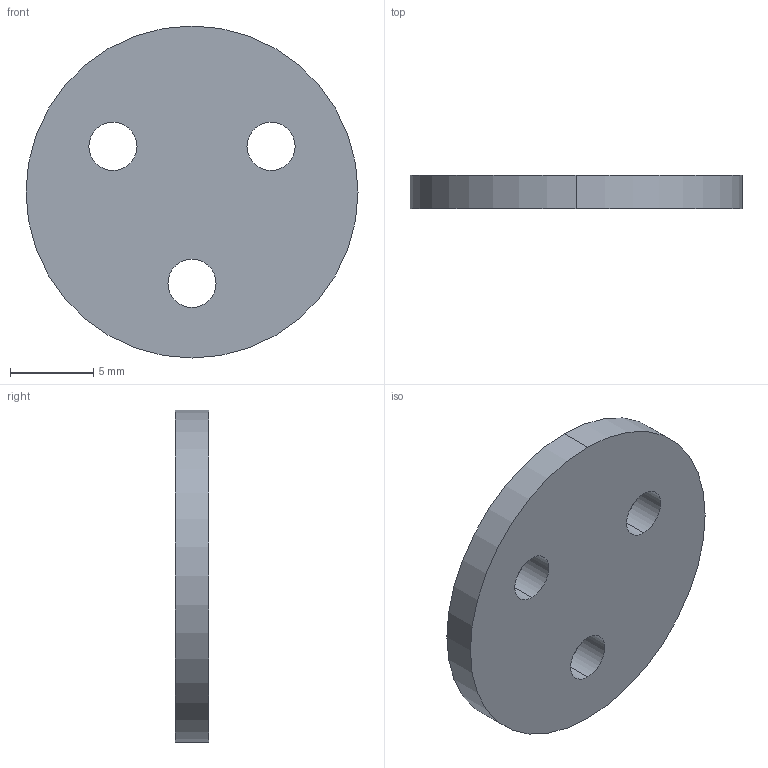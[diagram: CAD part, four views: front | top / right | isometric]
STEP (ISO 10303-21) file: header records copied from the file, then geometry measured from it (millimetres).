
FILE_DESCRIPTION (( 'STEP AP214' ), '1' );
FILE_NAME ('Bearing_holder_gripper.STEP', '2020-08-29T12:57:57', ( '' ), ( '' ), 'SwSTEP 2.0', 'SolidWorks 2020', '' );
FILE_SCHEMA (( 'AUTOMOTIVE_DESIGN' ));
Length unit declared in the file: millimetre
Products named in the file (1): Bearing_holder_gripper
Bounding box: 20 x 2 x 20 mm (x, y, z)
Volume: 588.7 mm3; surface area: 769 mm2
Topology: 1 solids, 1 shells, 10 faces, 24 edges, 16 vertices
Faces by surface type: cylinder 8, plane 2
Entity records: 350 total; most frequent: DIRECTION 62, CARTESIAN_POINT 51, ORIENTED_EDGE 48, AXIS2_PLACEMENT_3D 27, EDGE_CURVE 24, EDGE_LOOP 16, CIRCLE 16, VERTEX_POINT 16
